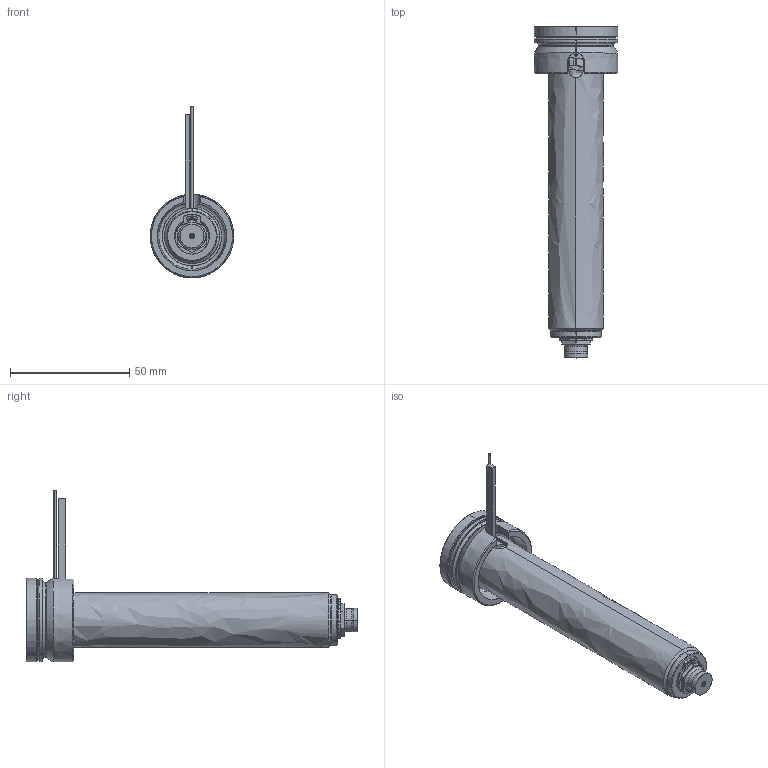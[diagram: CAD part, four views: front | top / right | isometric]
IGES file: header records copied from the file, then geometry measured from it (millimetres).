
Start section: SolidWorks IGES file using analytic representation for surfaces
Global section: file name: C:\Documents and Settings\ws-20\Desktop\TEM\UGEP3153-S-A-0 [Øf-0.90 P-0 ØC-7.0].IGS; native system: SolidWorks 2012; preprocessor: SolidWorks 2012; author: ws-20; date: 120404.082336; units: millimetre
Bounding box: 35 x 139 x 71.9 mm (x, y, z)
Surface area: 28289.5 mm2 (no closed solid volume)
Topology: 0 solids, 0 shells, 130 faces, 2048 edges, 2048 vertices
Faces by surface type: revolution 79, bspline 51
